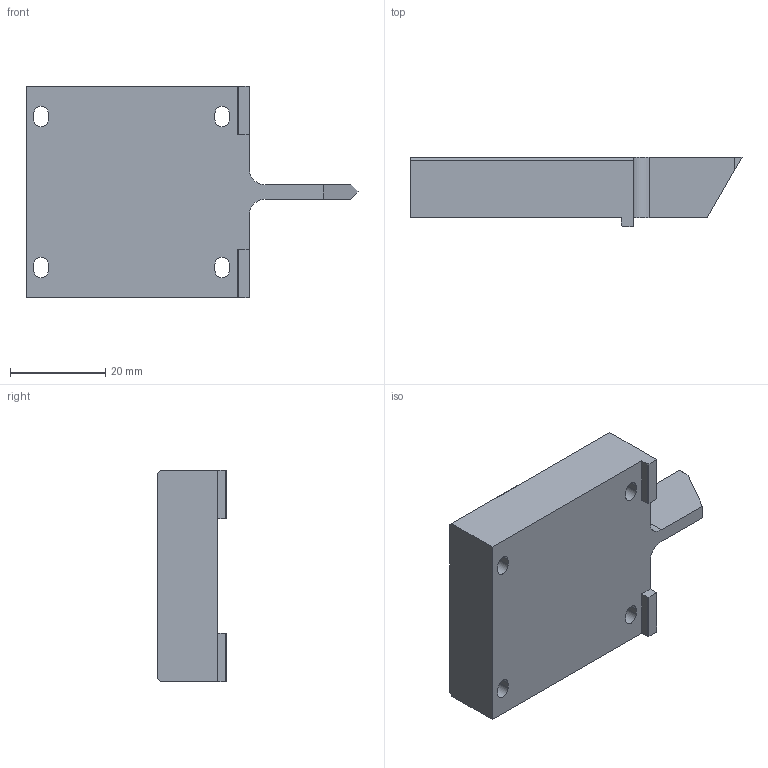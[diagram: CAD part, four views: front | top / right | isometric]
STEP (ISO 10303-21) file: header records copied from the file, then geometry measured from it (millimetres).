
FILE_DESCRIPTION(('', 'CAx-IF Rec.Pracs.---Representation and Presentation of Product Manufacturing Information (PMI)---4.0---2014-10-13'),'2;1');
FILE_NAME('C:/Users/JacobDiepeveen/OneDrive - Luminos/Documents/Jacob/CAD/PT Files/PT0544 T Rail System (BP004-SI)/solids/web/RCP.STP', '2026-04-30T13:54:34',(''), (''), 'Kubotek Kosmos Version 5.0.12905.12905', 'KeyCreator Pro', '');
FILE_SCHEMA(('AP242_MANAGED_MODEL_BASED_3D_ENGINEERING_MIM_LF { 1 0 10303 442 4 1 4 }'));
Length unit declared in the file: inch
Bounding box: 69.85 x 14.61 x 44.45 mm (x, y, z)
Volume: 26663.4 mm3; surface area: 7729.6 mm2
Topology: 1 solids, 1 shells, 60 faces, 161 edges, 107 vertices
Faces by surface type: plane 42, cylinder 18
Entity records: 2234 total; most frequent: CARTESIAN_POINT 332, ORIENTED_EDGE 322, DIRECTION 319, GENERAL_PROPERTY 222, EDGE_CURVE 161, VECTOR 125, LINE 125, VERTEX_POINT 107
